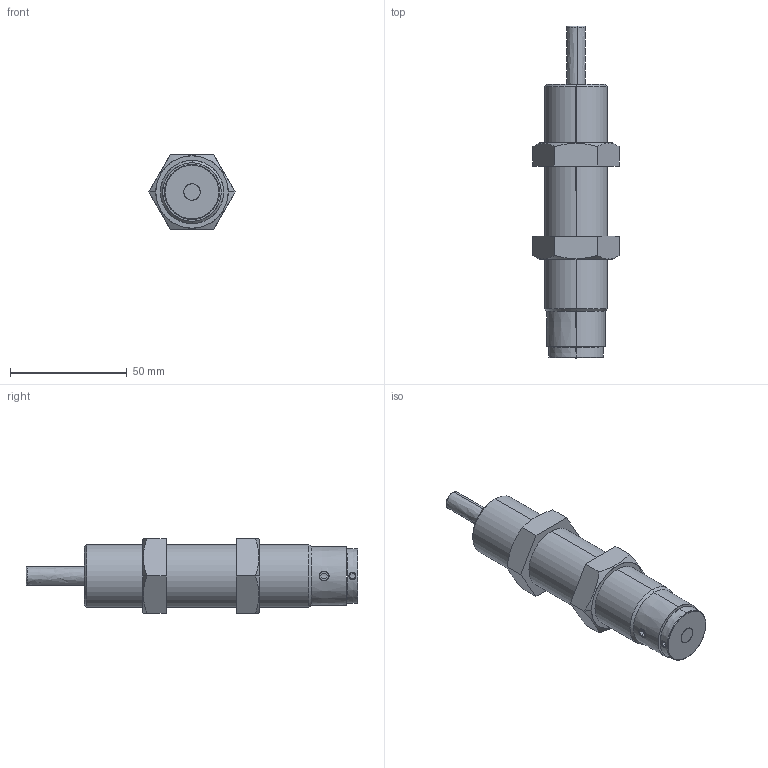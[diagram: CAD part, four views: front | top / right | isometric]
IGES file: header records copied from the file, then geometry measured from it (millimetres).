
Start section: SolidWorks IGES file using analytic representation for surfaces
Bounding box: 36.95 x 142.2 x 32 mm (x, y, z)
Surface area: 16449.2 mm2 (no closed solid volume)
Topology: 0 solids, 0 shells, 89 faces, 1564 edges, 1564 vertices
Faces by surface type: revolution 46, bspline 43
